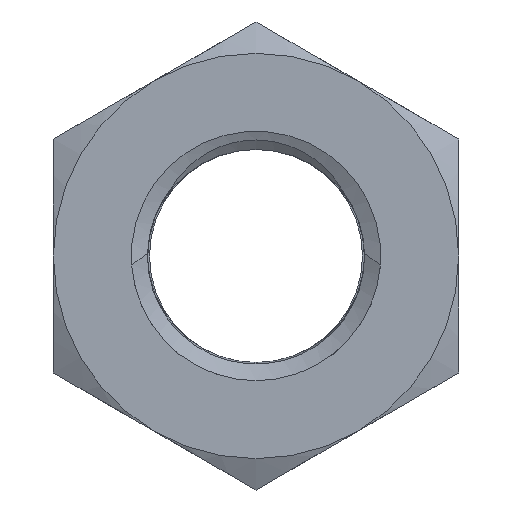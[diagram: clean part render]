
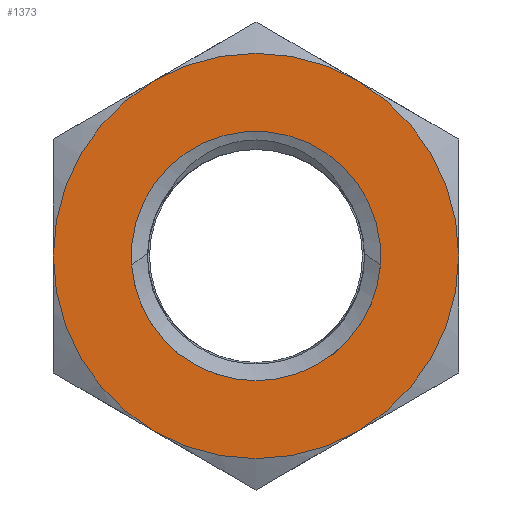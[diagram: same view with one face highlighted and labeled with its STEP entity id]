
A CAD part, front view. The second image highlights one B-rep face of the part: STEP entity #1373.
In plain terms, the highlighted planar face has unit normal (0, -1, 0).
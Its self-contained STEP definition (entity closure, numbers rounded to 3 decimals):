
#278=CARTESIAN_POINT('',(3.25,0.0,5.629));
#279=VERTEX_POINT('',#278);
#280=CARTESIAN_POINT('',(-3.25,0.0,5.629));
#281=VERTEX_POINT('',#280);
#282=CARTESIAN_POINT('',(0.0,0.0,0.0));
#283=DIRECTION('',(0.0,-1.0,0.0));
#284=DIRECTION('',(0.0,0.0,-1.0));
#285=AXIS2_PLACEMENT_3D('',#282,#283,#284);
#286=CIRCLE('',#285,6.5);
#287=EDGE_CURVE('',#279,#281,#286,.T.);
#327=CARTESIAN_POINT('',(3.99,0.0,-0.289));
#328=VERTEX_POINT('',#327);
#342=CARTESIAN_POINT('',(-3.99,0.,-0.289));
#343=VERTEX_POINT('',#342);
#372=CARTESIAN_POINT('',(0.0,0.0,0.0));
#373=DIRECTION('',(0.0,-1.0,0.0));
#374=DIRECTION('',(0.0,0.0,-1.0));
#375=AXIS2_PLACEMENT_3D('',#372,#373,#374);
#376=CIRCLE('',#375,4.0);
#377=EDGE_CURVE('',#343,#328,#376,.T.);
#1312=CARTESIAN_POINT('',(0.,0.0,-7.506));
#1313=DIRECTION('',(0.0,1.0,0.0));
#1314=DIRECTION('',(0.0,0.0,1.0));
#1315=AXIS2_PLACEMENT_3D('',#1312,#1313,#1314);
#1316=PLANE('',#1315);
#1317=ORIENTED_EDGE('',*,*,#287,.T.);
#1318=CARTESIAN_POINT('',(-6.5,0.0,0.));
#1319=VERTEX_POINT('',#1318);
#1320=CARTESIAN_POINT('',(0.0,0.0,0.0));
#1321=DIRECTION('',(0.0,-1.0,0.0));
#1322=DIRECTION('',(0.0,0.0,-1.0));
#1323=AXIS2_PLACEMENT_3D('',#1320,#1321,#1322);
#1324=CIRCLE('',#1323,6.5);
#1325=EDGE_CURVE('',#281,#1319,#1324,.T.);
#1326=ORIENTED_EDGE('',*,*,#1325,.T.);
#1327=CARTESIAN_POINT('',(-3.25,0.0,-5.629));
#1328=VERTEX_POINT('',#1327);
#1329=CARTESIAN_POINT('',(0.0,0.0,0.0));
#1330=DIRECTION('',(0.0,-1.0,0.0));
#1331=DIRECTION('',(0.0,0.0,-1.0));
#1332=AXIS2_PLACEMENT_3D('',#1329,#1330,#1331);
#1333=CIRCLE('',#1332,6.5);
#1334=EDGE_CURVE('',#1319,#1328,#1333,.T.);
#1335=ORIENTED_EDGE('',*,*,#1334,.T.);
#1336=CARTESIAN_POINT('',(3.25,0.0,-5.629));
#1337=VERTEX_POINT('',#1336);
#1338=CARTESIAN_POINT('',(0.0,0.0,0.0));
#1339=DIRECTION('',(0.0,-1.0,0.0));
#1340=DIRECTION('',(0.0,0.0,-1.0));
#1341=AXIS2_PLACEMENT_3D('',#1338,#1339,#1340);
#1342=CIRCLE('',#1341,6.5);
#1343=EDGE_CURVE('',#1328,#1337,#1342,.T.);
#1344=ORIENTED_EDGE('',*,*,#1343,.T.);
#1345=CARTESIAN_POINT('',(6.5,0.0,0.));
#1346=VERTEX_POINT('',#1345);
#1347=CARTESIAN_POINT('',(0.0,0.0,0.0));
#1348=DIRECTION('',(0.0,-1.0,0.0));
#1349=DIRECTION('',(0.0,0.0,-1.0));
#1350=AXIS2_PLACEMENT_3D('',#1347,#1348,#1349);
#1351=CIRCLE('',#1350,6.5);
#1352=EDGE_CURVE('',#1337,#1346,#1351,.T.);
#1353=ORIENTED_EDGE('',*,*,#1352,.T.);
#1354=CARTESIAN_POINT('',(0.0,0.0,0.0));
#1355=DIRECTION('',(0.0,-1.0,0.0));
#1356=DIRECTION('',(0.0,0.0,-1.0));
#1357=AXIS2_PLACEMENT_3D('',#1354,#1355,#1356);
#1358=CIRCLE('',#1357,6.5);
#1359=EDGE_CURVE('',#1346,#279,#1358,.T.);
#1360=ORIENTED_EDGE('',*,*,#1359,.T.);
#1361=EDGE_LOOP('',(#1317,#1326,#1335,#1344,#1353,#1360));
#1362=FACE_OUTER_BOUND('',#1361,.T.);
#1363=CARTESIAN_POINT('',(0.0,0.,0.0));
#1364=DIRECTION('',(0.0,-1.0,0.0));
#1365=DIRECTION('',(0.0,0.0,-1.0));
#1366=AXIS2_PLACEMENT_3D('',#1363,#1364,#1365);
#1367=CIRCLE('',#1366,4.0);
#1368=EDGE_CURVE('',#328,#343,#1367,.T.);
#1369=ORIENTED_EDGE('',*,*,#1368,.F.);
#1370=ORIENTED_EDGE('',*,*,#377,.F.);
#1371=EDGE_LOOP('',(#1369,#1370));
#1372=FACE_BOUND('',#1371,.T.);
#1373=ADVANCED_FACE('',(#1362,#1372),#1316,.F.);
